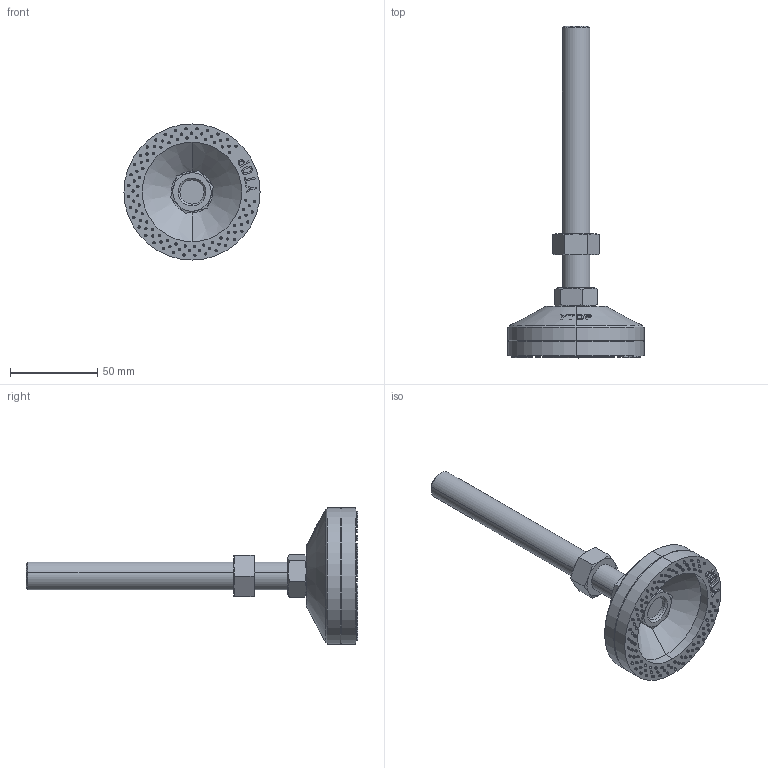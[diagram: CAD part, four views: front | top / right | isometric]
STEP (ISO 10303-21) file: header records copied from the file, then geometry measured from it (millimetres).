
FILE_DESCRIPTION (( 'STEP AP203' ), '1' );
FILE_NAME ('AH-80-16150-TPU.STEP', '2020-09-09T03:57:41', ( '' ), ( '' ), 'SwSTEP 2.0', 'SolidWorks 2016', '' );
FILE_SCHEMA (( 'CONFIG_CONTROL_DESIGN' ));
Length unit declared in the file: millimetre
Products named in the file (6): 脚垫锁紧六角薄螺母M16; 傲郈蹟裝M16炵蹈_M16X150; 脚垫调节六角螺母M16; AH-80-16150-TPU; AH-80蝶菜 ; AH-80菁釱 
Assembly tree (5 placements, depth 2):
  AH-80-16150-TPU
    AH-80蝶菜 
    AH-80菁釱 
    脚垫锁紧六角薄螺母M16
    脚垫调节六角螺母M16
    傲郈蹟裝M16炵蹈_M16X150
Bounding box: 78 x 190.2 x 78 mm (x, y, z)
Volume: 116371.4 mm3; surface area: 39839.2 mm2
Topology: 5 solids, 5 shells, 579 faces, 1608 edges, 961 vertices
Faces by surface type: cylinder 208, sphere 190, cone 66, plane 65, bspline 50
Entity records: 20925 total; most frequent: CARTESIAN_POINT 7737, DIRECTION 2766, ORIENTED_EDGE 2456, EDGE_CURVE 1228, AXIS2_PLACEMENT_3D 1207, VERTEX_POINT 771, EDGE_LOOP 699, CIRCLE 670
